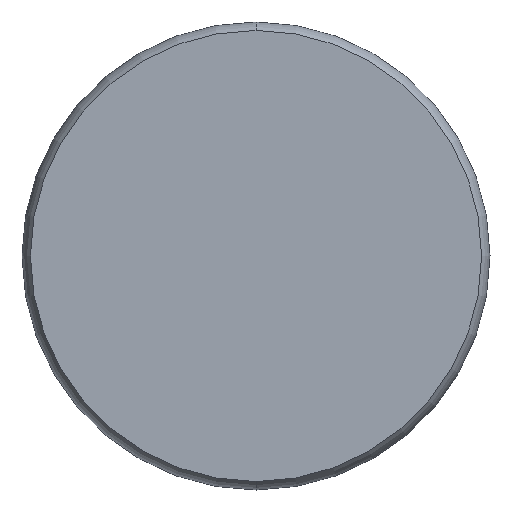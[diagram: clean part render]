
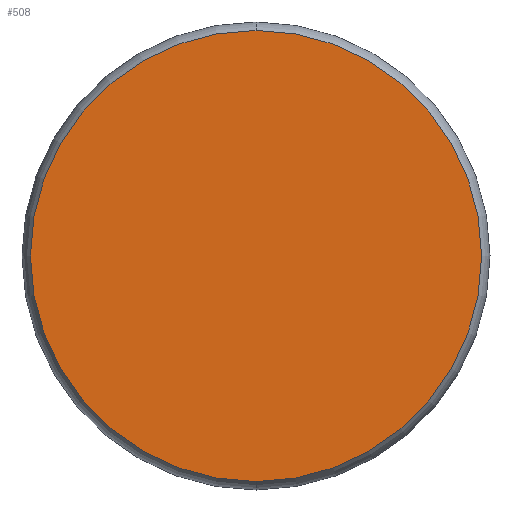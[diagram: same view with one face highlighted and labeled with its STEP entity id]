
A CAD part, front view. The second image highlights one B-rep face of the part: STEP entity #508.
In plain terms, the highlighted planar face has unit normal (0, -1, 0).
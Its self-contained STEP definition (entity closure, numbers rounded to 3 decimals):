
#48 = EDGE_LOOP ( 'NONE', ( #289, #79 ) ) ;
#51 = CARTESIAN_POINT ( 'NONE',  ( 0., 0., 0. ) ) ;
#57 = EDGE_CURVE ( 'NONE', #889, #275, #225, .T. ) ;
#79 = ORIENTED_EDGE ( 'NONE', *, *, #57, .F. ) ;
#102 = FACE_OUTER_BOUND ( 'NONE', #48, .T. ) ;
#159 = CARTESIAN_POINT ( 'NONE',  ( 0., 0., 4. ) ) ;
#176 = DIRECTION ( 'NONE',  ( 0., 0., 1. ) ) ;
#223 = AXIS2_PLACEMENT_3D ( 'NONE', #451, #447, #510 ) ;
#225 = CIRCLE ( 'NONE', #773, 4. ) ;
#241 = EDGE_CURVE ( 'NONE', #275, #889, #598, .T. ) ;
#262 = DIRECTION ( 'NONE',  ( 0., 1., 0. ) ) ;
#275 = VERTEX_POINT ( 'NONE', #159 ) ;
#289 = ORIENTED_EDGE ( 'NONE', *, *, #241, .F. ) ;
#447 = DIRECTION ( 'NONE',  ( 0., 1., 0. ) ) ;
#451 = CARTESIAN_POINT ( 'NONE',  ( 0., 0., 0. ) ) ;
#469 = AXIS2_PLACEMENT_3D ( 'NONE', #553, #859, #176 ) ;
#508 = ADVANCED_FACE ( 'NONE', ( #102 ), #547, .F. ) ;
#510 = DIRECTION ( 'NONE',  ( 0., 0., 1. ) ) ;
#547 = PLANE ( 'NONE',  #469 ) ;
#553 = CARTESIAN_POINT ( 'NONE',  ( 0., 0., -4. ) ) ;
#598 = CIRCLE ( 'NONE', #223, 4. ) ;
#731 = DIRECTION ( 'NONE',  ( 0., 0., 1. ) ) ;
#773 = AXIS2_PLACEMENT_3D ( 'NONE', #51, #262, #731 ) ;
#859 = DIRECTION ( 'NONE',  ( 0., 1., 0. ) ) ;
#889 = VERTEX_POINT ( 'NONE', #920 ) ;
#920 = CARTESIAN_POINT ( 'NONE',  ( 0., 0., -4. ) ) ;
